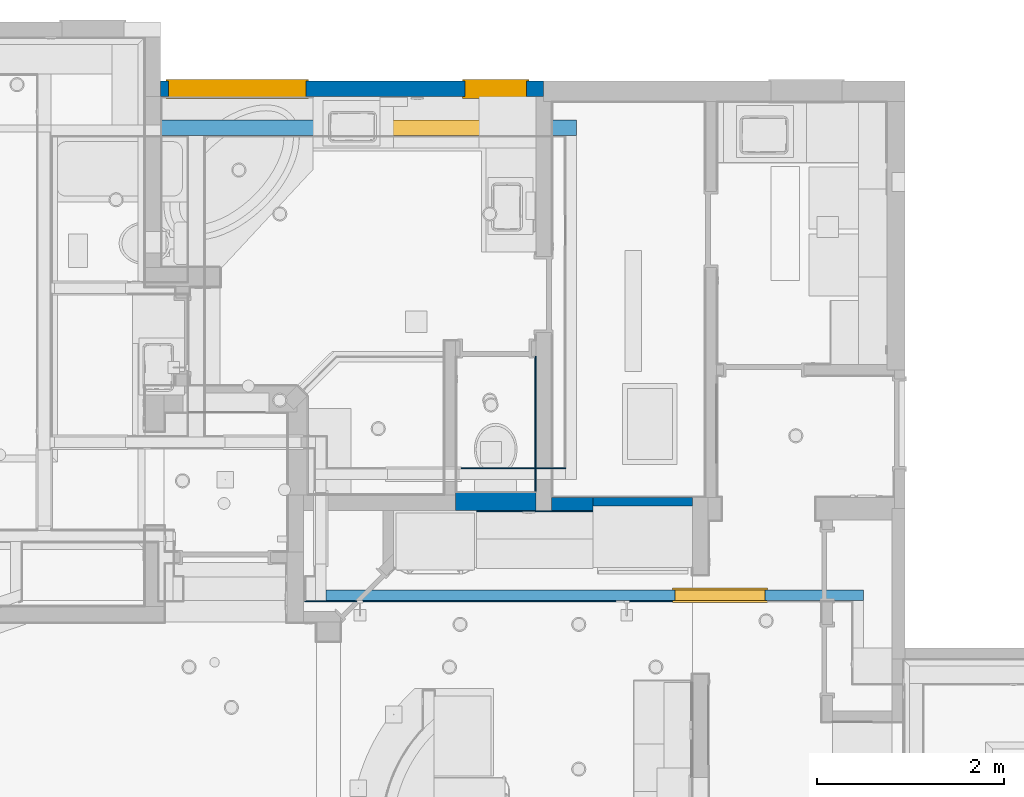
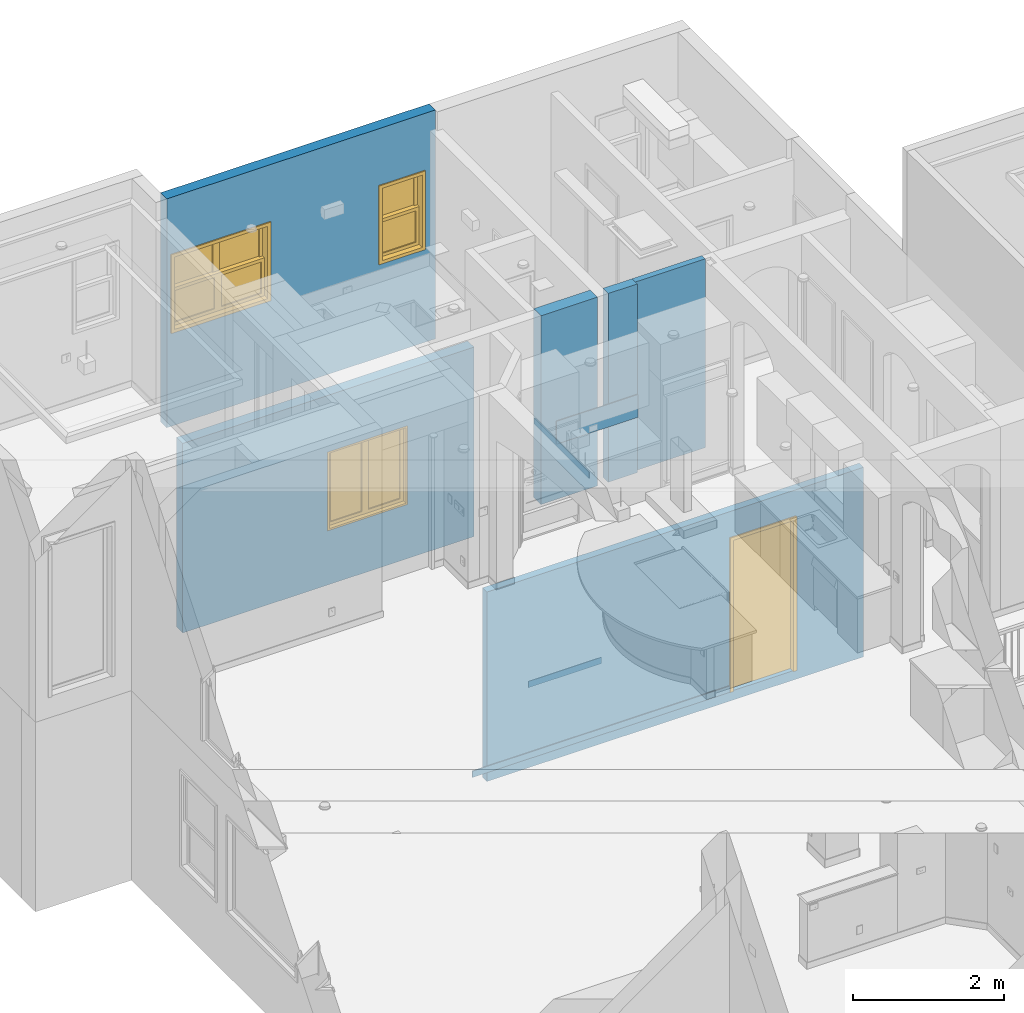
# One storey, part 11 of 60: 10 walls, 3 windows, 1 door, 4 openings.
"""IFC2X3 building model written with IfcOpenShell, lengths in feet."""

import ifcopenshell
import ifcopenshell.guid

model = None  # the IFC model being written
_history = None  # IfcOwnerHistory: only IFC2X3 demands one
_inside = {}  # id of a spatial element -> (the spatial element, [elements in it])
_under = {}  # id of a project, library or spatial element -> (it, [spatial elements below it])
_declared = {}  # id of a project -> (the project, [libraries it declares])
_typed = {}  # id of a type object -> (the type object, [elements of that type])
_made_of = {}  # id of a material, layer set ... -> (it, [elements and type objects made of it])


def new_model(schema):
    """Start an empty IFC model of exactly this schema.

    Asked for "IFC4X3", IfcOpenShell would pick the latest addendum, in which some entities
    have other attributes; the version numbers below select the first issue.
    IFC2X3 requires an IfcOwnerHistory on every rooted entity: one is made here for all.
    """
    global model, _history
    if schema == "IFC4X3":
        model = ifcopenshell.file(schema_version=(4, 3, 0, 0))
    else:
        model = ifcopenshell.file(schema=schema)
    _inside.clear()
    _under.clear()
    _declared.clear()
    _typed.clear()
    _made_of.clear()
    _history = None
    if model.schema == "IFC2X3":
        org = make("IfcOrganization", Name="unknown")
        user = make(
            "IfcPersonAndOrganization",
            ThePerson=make("IfcPerson", FamilyName="unknown"),
            TheOrganization=org,
        )
        app = make(
            "IfcApplication",
            ApplicationDeveloper=org,
            Version="unknown",
            ApplicationFullName="unknown",
            ApplicationIdentifier="unknown",
        )
        _history = make(
            "IfcOwnerHistory",
            OwningUser=user,
            OwningApplication=app,
            ChangeAction="ADDED",
            CreationDate=0,
        )
    return model


def make(cls, **values):
    """One entity of the class cls with the attributes given. An attribute that is None is left unset."""
    return model.create_entity(
        cls, **{name: value for name, value in values.items() if value is not None}
    )


def entity(cls, *values):
    """Any entity or typed value of the class cls, its attributes in the order of the schema. None: left unset."""
    e = model.create_entity(cls)
    for i, value in enumerate(values):
        if value is not None:
            e[i] = value
    return e


def rooted(cls, **values):
    """An entity with a GlobalId (a new one), such as an element, a storey or a relation."""
    return make(cls, GlobalId=ifcopenshell.guid.new(), OwnerHistory=_history, **values)


def si_unit(unit_type, name, prefix=None):
    """IfcSIUnit, for example si_unit("LENGTHUNIT", "METRE", prefix="MILLI")."""
    return make("IfcSIUnit", UnitType=unit_type, Prefix=prefix, Name=name)


def converted_unit(unit_type, name, factor, base, dimensions=None, offset=None):
    """IfcConversionBasedUnit, such as the inch: factor (a typed value) times the base unit."""
    return make(
        "IfcConversionBasedUnit"
        if offset is None
        else "IfcConversionBasedUnitWithOffset",
        ConversionOffset=offset,
        Dimensions=None
        if dimensions is None
        else entity("IfcDimensionalExponents", *dimensions),
        UnitType=unit_type,
        Name=name,
        ConversionFactor=make(
            "IfcMeasureWithUnit", ValueComponent=factor, UnitComponent=base
        ),
    )


def assignment(units):
    """IfcUnitAssignment: the units of a project."""
    return None if units is None else make("IfcUnitAssignment", Units=units)


def point(xyz):
    """IfcCartesianPoint."""
    return None if xyz is None else make("IfcCartesianPoint", Coordinates=xyz)


def direction(xyz):
    """IfcDirection."""
    return None if xyz is None else make("IfcDirection", DirectionRatios=xyz)


def frame(location, z_axis=None, x_axis=None):
    """IfcAxis2Placement3D, a coordinate frame: its origin and axes. An axis left out is left unset."""
    return make(
        "IfcAxis2Placement3D",
        Location=point(location),
        Axis=direction(z_axis),
        RefDirection=direction(x_axis),
    )


def frame_2d(location, x_axis=None):
    """IfcAxis2Placement2D, a coordinate frame in the plane: its origin and x axis."""
    return make(
        "IfcAxis2Placement2D", Location=point(location), RefDirection=direction(x_axis)
    )


def origin():
    """The frame at (0, 0, 0) with its axes left unset."""
    return frame((0.0, 0.0, 0.0))


def origin_2d_with_axis():
    """The frame at (0, 0) in the plane with the x axis (1, 0) written out."""
    return frame_2d((0.0, 0.0), x_axis=(1.0, 0.0))


def place(relative_to, where):
    """IfcLocalPlacement: puts the frame where relative to a parent placement (None: the world)."""
    return make(
        "IfcLocalPlacement", PlacementRelTo=relative_to, RelativePlacement=where
    )


def context(
    kind, dimensions, precision=None, world=None, true_north=None, identifier=None
):
    """IfcGeometricRepresentationContext, for example the 3D "Model" context."""
    return make(
        "IfcGeometricRepresentationContext",
        ContextIdentifier=identifier,
        ContextType=kind,
        CoordinateSpaceDimension=dimensions,
        Precision=precision,
        WorldCoordinateSystem=world,
        TrueNorth=true_north,
    )


def subcontext(parent, identifier, kind, view, scale=None):
    """IfcGeometricRepresentationSubContext, for example "Body" below "Model"."""
    return make(
        "IfcGeometricRepresentationSubContext",
        ContextIdentifier=identifier,
        ContextType=kind,
        ParentContext=parent,
        TargetScale=scale,
        TargetView=view,
    )


def project(units=None, contexts=None):
    """IfcProject with its units and contexts."""
    return rooted(
        "IfcProject",
        Name="project",
        RepresentationContexts=contexts,
        UnitsInContext=assignment(units),
    )


def spatial(cls, under=None, at=None, **own):
    """A site, building, storey or space (cls), placed at a placement, below another one or the project."""
    s = rooted(cls, ObjectPlacement=at, **own)
    if under is not None:
        _under.setdefault(under.id(), (under, []))[1].append(s)
    return s


def polyline(points):
    """IfcPolyline through the points."""
    return make("IfcPolyline", Points=[point(p) for p in points])


def profile(cls, at=None, kind="AREA", **sizes):
    """A parametric profile (cls). Its sizes go by their IFC names, for example OverallWidth=200.0."""
    return make(cls, ProfileType=kind, Position=at, **sizes)


def rectangle(**sizes):
    """IfcRectangleProfileDef."""
    return profile("IfcRectangleProfileDef", **sizes)


def outline(outer, holes=None, kind="AREA"):
    """IfcArbitraryClosedProfileDef: a profile drawn as a closed curve; with holes, ...WithVoids."""
    if holes is None:
        return make("IfcArbitraryClosedProfileDef", ProfileType=kind, OuterCurve=outer)
    return make(
        "IfcArbitraryProfileDefWithVoids",
        ProfileType=kind,
        OuterCurve=outer,
        InnerCurves=holes,
    )


def extrude(swept, where, along, depth):
    """IfcExtrudedAreaSolid: the profile swept, set in the frame where, extruded along a direction by depth."""
    return make(
        "IfcExtrudedAreaSolid",
        SweptArea=swept,
        Position=where,
        ExtrudedDirection=direction(along),
        Depth=depth,
    )


def shape(context_of_items, identifier, shape_type, items):
    """IfcShapeRepresentation: the items that make up one representation, for example the "Body"."""
    return make(
        "IfcShapeRepresentation",
        ContextOfItems=context_of_items,
        RepresentationIdentifier=identifier,
        RepresentationType=shape_type,
        Items=items,
    )


def source(mapping_origin, context_of_items, identifier, shape_type, items):
    """IfcRepresentationMap: a shape defined once, which mapped items show again and again."""
    return make(
        "IfcRepresentationMap",
        MappingOrigin=mapping_origin,
        MappedRepresentation=shape(context_of_items, identifier, shape_type, items),
    )


def transform(
    local_origin,
    x_axis=None,
    y_axis=None,
    z_axis=None,
    scale=None,
    scale2=None,
    scale3=None,
    uniform=True,
):
    """IfcCartesianTransformationOperator3D, or its non-uniform kind. x_axis, y_axis, z_axis: its Axis1, 2, 3."""
    if uniform:
        return make(
            "IfcCartesianTransformationOperator3D",
            Axis1=direction(x_axis),
            Axis2=direction(y_axis),
            LocalOrigin=point(local_origin),
            Scale=scale,
            Axis3=direction(z_axis),
        )
    return make(
        "IfcCartesianTransformationOperator3DnonUniform",
        Axis1=direction(x_axis),
        Axis2=direction(y_axis),
        LocalOrigin=point(local_origin),
        Scale=scale,
        Axis3=direction(z_axis),
        Scale2=scale2,
        Scale3=scale3,
    )


def mapped(mapping_source, mapping_target):
    """IfcMappedItem: shows the shape of a source again, moved by a transform."""
    return make(
        "IfcMappedItem", MappingSource=mapping_source, MappingTarget=mapping_target
    )


def material(Name=None, Category=None):
    """IfcMaterial."""
    return make("IfcMaterial", Name=Name, Category=Category)


def material_list(materials):
    """IfcMaterialList."""
    return make("IfcMaterialList", Materials=materials)


def layer(
    of_material, thickness, ventilated=None, Name=None, Category=None, Priority=None
):
    """IfcMaterialLayer: one layer of a wall or slab, of a material (None: an air gap)."""
    return make(
        "IfcMaterialLayer",
        Material=of_material,
        LayerThickness=thickness,
        IsVentilated=ventilated,
        Name=Name,
        Category=Category,
        Priority=Priority,
    )


def layer_set(layers, Name=None):
    """IfcMaterialLayerSet."""
    return make("IfcMaterialLayerSet", MaterialLayers=layers, LayerSetName=Name)


def layer_usage(for_layer_set, set_direction, sense, offset, extent=None):
    """IfcMaterialLayerSetUsage: how a layer set lies in its element."""
    return make(
        "IfcMaterialLayerSetUsage",
        ForLayerSet=for_layer_set,
        LayerSetDirection=set_direction,
        DirectionSense=sense,
        OffsetFromReferenceLine=offset,
        ReferenceExtent=extent,
    )


def made_of(thing, what):
    """Note that an element or type object is made of a material, layer set ...; save() writes the relation."""
    if what is not None:
        _made_of.setdefault(what.id(), (what, []))[1].append(thing)
    return thing


def type_object(cls, material=None, **own):
    """A type object (cls), such as IfcWallType, which elements share."""
    return made_of(rooted(cls, **own), material)


def type_shapes(of_type, sources):
    """Give a type object the sources (RepresentationMaps) that its elements show as mapped items."""
    of_type.RepresentationMaps = sources


def element(
    cls,
    number,
    at=None,
    inside=None,
    cuts=None,
    type_object=None,
    material=None,
    context=None,
    identifier="Body",
    shape_type=None,
    held_by="IfcProductDefinitionShape",
    body=None,
    shapes=None,
    **own,
):
    """One element of the class cls, such as IfcWall. Its Tag is "e" and its number.

    at: its placement. inside: the storey or other place that contains it. cuts: it is an
    opening in that element (IfcRelVoidsElement). A single representation is given by context,
    identifier, shape_type and body (its items); several are given by shapes. held_by: the class
    of the entity that holds the representations. save() writes the other relations.
    """
    e = rooted(cls, Tag="e%d" % number, ObjectPlacement=at, **own)
    if body is not None:
        shapes = [shape(context, identifier, shape_type, body)]
    if shapes is not None:
        e.Representation = make(held_by, Representations=shapes)
    if inside is not None:
        _inside.setdefault(inside.id(), (inside, []))[1].append(e)
    if cuts is not None:
        rooted(
            "IfcRelVoidsElement", RelatingBuildingElement=cuts, RelatedOpeningElement=e
        )
    if type_object is not None:
        _typed.setdefault(type_object.id(), (type_object, []))[1].append(e)
    return made_of(e, material)


def fill(opening, filler):
    """IfcRelFillsElement: the door or window that sits in an opening."""
    return rooted(
        "IfcRelFillsElement",
        RelatingOpeningElement=opening,
        RelatedBuildingElement=filler,
    )


def aggregate(whole, parts):
    """IfcRelAggregates: a whole, such as a stair, and the parts it consists of."""
    return rooted("IfcRelAggregates", RelatingObject=whole, RelatedObjects=parts)


def save(model, path):
    """Write the relations noted so far, then the file.

    IfcRelAggregates (storeys below a building ...), IfcRelContainedInSpatialStructure (elements
    in a storey), IfcRelDefinesByType, IfcRelAssociatesMaterial and IfcRelDeclares: one each for
    every whole, place, type object, material and project.
    """
    for whole, parts in _under.values():
        aggregate(whole, parts)
    for where, things in _inside.values():
        rooted(
            "IfcRelContainedInSpatialStructure",
            RelatedElements=things,
            RelatingStructure=where,
        )
    for kind, things in _typed.values():
        rooted("IfcRelDefinesByType", RelatedObjects=things, RelatingType=kind)
    for what, things in _made_of.values():
        rooted("IfcRelAssociatesMaterial", RelatedObjects=things, RelatingMaterial=what)
    for by, libraries in _declared.values():
        rooted("IfcRelDeclares", RelatingContext=by, RelatedDefinitions=libraries)
    model.write(path)


model = new_model("IFC2X3")

# Units and contexts
model_context = context("Model", 3, precision=0.0001, world=origin(), true_north=direction((6.123031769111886e-17, 1.0)))
plan_context = context("Plan", 3, precision=0.0001, world=origin(), true_north=direction((6.123031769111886e-17, 1.0)))
body_context = subcontext(model_context, "Body", "Model", "MODEL_VIEW")
ifc_project = project(units=[converted_unit("LENGTHUNIT", "FOOT", entity("IfcLengthMeasure", 0.3048), si_unit("LENGTHUNIT", "METRE"), dimensions=[1, 0, 0, 0, 0, 0, 0]), converted_unit("AREAUNIT", "SQUARE FOOT", entity("IfcAreaMeasure", 0.09290304), si_unit("AREAUNIT", "SQUARE_METRE"), dimensions=[2, 0, 0, 0, 0, 0, 0]), converted_unit("PLANEANGLEUNIT", "DEGREE", entity("IfcPlaneAngleMeasure", 0.017453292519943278), si_unit("PLANEANGLEUNIT", "RADIAN"), dimensions=[0, 0, 0, 0, 0, 0, 0])], contexts=[model_context, plan_context])

# Site, building, storey
site_placement = place(None, origin())
site = spatial("IfcSite", under=ifc_project, at=site_placement, Name="Default", CompositionType="ELEMENT")
building_placement = place(site_placement, origin())
building = spatial("IfcBuilding", under=site, at=building_placement, CompositionType="ELEMENT")
storey_placement = place(building_placement, origin())
storey = spatial("IfcBuildingStorey", under=building, at=storey_placement, Name="First floor", CompositionType="ELEMENT", Elevation=0.0)

# Wall, openings, windows
ifc_material_1 = material(Name="Default New Material")
ifc_layer_1 = layer(ifc_material_1, 0.5416666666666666)
ifc_layer_set_1 = layer_set([ifc_layer_1], Name="Basic Wall:Wall_6.5\"")
ifc_layer_usage_1 = layer_usage(ifc_layer_set_1, "AXIS2", "NEGATIVE", 0.2708333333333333)
wall_type_1 = type_object("IfcWallType", Name="Basic Wall:Wall_6.5\"", PredefinedType="STANDARD", material=ifc_layer_set_1)
wall_1_placement = place(storey_placement, frame((-5.770833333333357, 47.770488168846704, 9.541666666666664)))
wall_1 = element("IfcWallStandardCase", 1, at=wall_1_placement, inside=storey, type_object=wall_type_1, material=ifc_layer_usage_1, Name="Basic Wall:Wall_6.5\"", ObjectType="Basic Wall:Wall_6.5\"", context=body_context, shape_type="SweptSolid", body=[
    extrude(rectangle(XDim=13.458333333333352, YDim=0.5416666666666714, at=frame_2d((6.729166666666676, 4.440892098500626e-16), x_axis=(-1.0, 0.0))), origin(), (0.0, 0.0, 1.0), 12.125),
])
opening_1_placement = place(wall_1_placement, frame((10.687499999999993, -0.27083333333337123, 5.041666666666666)))
opening_1 = element("IfcOpeningElement", 2, at=opening_1_placement, cuts=wall_1, Name="C_Window Guilotine:2'-0\" X 3'-10\":1", ObjectType="Opening", context=body_context, shape_type="SweptSolid", body=[
    extrude(rectangle(XDim=2.166666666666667, YDim=4.000000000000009, at=frame_2d((2.0000000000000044, 1.083333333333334), x_axis=(0.0, -1.0))), frame((0.0, 0.0, 0.0), z_axis=(0.0, 1.0, 0.0), x_axis=(0.0, 0.0, 1.0)), (0.0, 0.0, 1.0), 0.5416666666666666),
])
opening_2_placement = place(wall_1_placement, frame((0.27083333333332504, -0.2708333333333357, 5.041666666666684)))
opening_2 = element("IfcOpeningElement", 3, at=opening_2_placement, cuts=wall_1, Name="C_Double Window Guilotine:4'-8\" X 3'-10\":1", ObjectType="Opening", context=body_context, shape_type="SweptSolid", body=[
    extrude(rectangle(XDim=4.833333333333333, YDim=4.0, at=frame_2d((2.000000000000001, 2.4166666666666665), x_axis=(0.0, -1.0))), frame((0.0, 0.0, 0.0), z_axis=(0.0, 1.0, 0.0), x_axis=(0.0, 0.0, 1.0)), (0.0, 0.0, 1.0), 0.5416666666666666),
])
ifc_material_2 = material(Name="Glass")
ifc_material_list_1 = material_list([ifc_material_1, ifc_material_2])
window_style_1 = type_object("IfcWindowStyle", Name="C_Double Window Guilotine:4'-8\" X 3'-10\"", ConstructionType="NOTDEFINED", OperationType="NOTDEFINED", ParameterTakesPrecedence=False, Sizeable=False, material=ifc_material_list_1)
shared_shape_1 = source(origin(), body_context, "Body", "SweptSolid", [
    extrude(outline(polyline([(-1.166666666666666, -1.0), (1.166666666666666, -1.0), (1.166666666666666, 1.0), (-1.166666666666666, 1.0), (-1.166666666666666, -1.0)]), holes=[polyline([(-1.0, -0.8333333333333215), (-1.0, 0.8333333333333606), (1.0, 0.8333333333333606), (1.0, -0.8333333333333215), (-1.0, -0.8333333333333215)])]), frame((1.250000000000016, 0.5416666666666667, 2.916666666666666), z_axis=(0.0, -1.0, 0.0), x_axis=(-1.0, 0.0, 0.0)), (0.0, 0.0, 1.0), 0.16666666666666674),
    extrude(rectangle(XDim=1.9999999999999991, YDim=0.04166666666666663, at=origin_2d_with_axis()), frame((1.2500000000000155, 0.2916666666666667, 1.3402777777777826)), (0.0, 0.0, 1.0), 0.04166666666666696),
    extrude(rectangle(XDim=2.0000000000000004, YDim=0.04166666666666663, at=origin_2d_with_axis()), frame((1.2500000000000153, 0.2916666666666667, 0.7847222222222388)), (0.0, 0.0, 1.0), 0.04166666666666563),
    extrude(rectangle(XDim=2.0000000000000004, YDim=0.041666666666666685, at=frame_2d((3.3306690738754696e-16, 2.7755575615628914e-17), x_axis=(1.0, 0.0))), frame((1.2500000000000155, 0.45833333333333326, 3.173611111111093)), (0.0, 0.0, 1.0), 0.04166666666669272),
    extrude(rectangle(XDim=2.0000000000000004, YDim=0.041666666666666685, at=frame_2d((3.3306690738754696e-16, 2.7755575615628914e-17), x_axis=(1.0, 0.0))), frame((1.2500000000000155, 0.45833333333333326, 2.6180555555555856)), (0.0, 0.0, 1.0), 0.04166666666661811),
    extrude(rectangle(XDim=0.04166666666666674, YDim=0.041666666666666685, at=frame_2d((0.0, 2.7755575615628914e-17), x_axis=(1.0, 0.0))), frame((1.5833333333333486, 0.45833333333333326, 2.0833333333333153)), (0.0, 0.0, 1.0), 1.6666666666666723),
    extrude(rectangle(XDim=0.041666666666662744, YDim=0.041666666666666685, at=frame_2d((-1.1102230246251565e-16, 2.7755575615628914e-17), x_axis=(1.0, 0.0))), frame((0.9166666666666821, 0.45833333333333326, 2.0833333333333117)), (0.0, 0.0, 1.0), 1.6666666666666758),
    extrude(rectangle(XDim=2.0000000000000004, YDim=0.04166666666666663, at=frame_2d((1.1102230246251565e-16, 0.0), x_axis=(1.0, 0.0))), frame((1.250000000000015, 0.4583333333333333, 2.0833333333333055)), (0.0, 0.0, 1.0), 1.666666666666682),
    extrude(rectangle(XDim=0.04166666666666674, YDim=0.04166666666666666, at=origin_2d_with_axis()), frame((1.5833333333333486, 0.2916666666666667, 0.24999999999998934)), (0.0, 0.0, 1.0), 1.666666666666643),
    extrude(rectangle(XDim=0.04166666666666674, YDim=0.04166666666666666, at=frame_2d((-1.1102230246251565e-16, 0.0), x_axis=(1.0, 0.0))), frame((0.9166666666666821, 0.2916666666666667, 0.24999999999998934)), (0.0, 0.0, 1.0), 1.666666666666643),
    extrude(rectangle(XDim=1.9999999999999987, YDim=0.04166666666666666, at=origin_2d_with_axis()), frame((1.2500000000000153, 0.2916666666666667, 0.24999999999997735)), (0.0, 0.0, 1.0), 1.6666666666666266),
    extrude(outline(polyline([(-1.0, -1.166666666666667), (1.0, -1.166666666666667), (1.0, 1.1666666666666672), (-1.0, 1.1666666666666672), (-1.0, -1.166666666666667)]), holes=[polyline([(-0.8333333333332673, 1.0), (0.8333333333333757, 1.0), (0.8333333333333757, -1.0), (-0.8333333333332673, -1.0), (-0.8333333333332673, 1.0)])]), frame((1.250000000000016, 0.375, 1.083333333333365), z_axis=(0.0, -1.0, 0.0), x_axis=(0.0, 0.0, -1.0)), (0.0, 0.0, 1.0), 0.16666666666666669),
    extrude(outline(polyline([(-1.166666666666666, -1.0), (1.166666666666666, -1.0), (1.166666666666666, 1.0), (-1.166666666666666, 1.0), (-1.166666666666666, -1.0)]), holes=[polyline([(-1.0, -0.8333333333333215), (-1.0, 0.8333333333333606), (1.0, 0.8333333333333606), (1.0, -0.8333333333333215), (-1.0, -0.8333333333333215)])]), frame((3.583333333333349, 0.5416666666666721, 2.916666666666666), z_axis=(0.0, -1.0, 0.0), x_axis=(-1.0, 0.0, 0.0)), (0.0, 0.0, 1.0), 0.16666666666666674),
    extrude(rectangle(XDim=1.9999999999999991, YDim=0.04166666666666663, at=origin_2d_with_axis()), frame((3.5833333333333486, 0.29166666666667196, 1.3402777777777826)), (0.0, 0.0, 1.0), 0.04166666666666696),
    extrude(rectangle(XDim=2.0000000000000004, YDim=0.04166666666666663, at=origin_2d_with_axis()), frame((3.583333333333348, 0.29166666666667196, 0.7847222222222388)), (0.0, 0.0, 1.0), 0.04166666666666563),
    extrude(rectangle(XDim=2.000000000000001, YDim=0.041666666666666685, at=frame_2d((-1.1102230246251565e-16, 0.0), x_axis=(1.0, 0.0))), frame((3.583333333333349, 0.45833333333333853, 3.173611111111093)), (0.0, 0.0, 1.0), 0.04166666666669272),
    extrude(rectangle(XDim=2.000000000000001, YDim=0.041666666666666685, at=frame_2d((-1.1102230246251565e-16, 0.0), x_axis=(1.0, 0.0))), frame((3.583333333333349, 0.45833333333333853, 2.6180555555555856)), (0.0, 0.0, 1.0), 0.04166666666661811),
    extrude(rectangle(XDim=0.04166666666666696, YDim=0.041666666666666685, at=origin_2d_with_axis()), frame((3.9166666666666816, 0.45833333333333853, 2.0833333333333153)), (0.0, 0.0, 1.0), 1.6666666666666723),
    extrude(rectangle(XDim=0.04166666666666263, YDim=0.041666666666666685, at=frame_2d((5.551115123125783e-17, 0.0), x_axis=(1.0, 0.0))), frame((3.250000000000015, 0.45833333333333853, 2.0833333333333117)), (0.0, 0.0, 1.0), 1.6666666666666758),
    extrude(rectangle(XDim=2.0, YDim=0.04166666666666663, at=origin_2d_with_axis()), frame((3.583333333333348, 0.4583333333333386, 2.0833333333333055)), (0.0, 0.0, 1.0), 1.666666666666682),
    extrude(rectangle(XDim=0.04166666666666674, YDim=0.04166666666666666, at=frame_2d((-1.1102230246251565e-16, 0.0), x_axis=(1.0, 0.0))), frame((3.9166666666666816, 0.29166666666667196, 0.24999999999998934)), (0.0, 0.0, 1.0), 1.666666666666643),
    extrude(rectangle(XDim=0.04166666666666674, YDim=0.04166666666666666, at=origin_2d_with_axis()), frame((3.250000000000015, 0.29166666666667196, 0.24999999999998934)), (0.0, 0.0, 1.0), 1.666666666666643),
    extrude(rectangle(XDim=1.9999999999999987, YDim=0.04166666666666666, at=frame_2d((-5.551115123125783e-17, 0.0), x_axis=(1.0, 0.0))), frame((3.583333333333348, 0.29166666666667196, 0.24999999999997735)), (0.0, 0.0, 1.0), 1.6666666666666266),
    extrude(outline(polyline([(-1.0, -1.166666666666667), (1.0, -1.166666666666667), (1.0, 1.166666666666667), (-1.0, 1.166666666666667), (-1.0, -1.166666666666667)]), holes=[polyline([(-0.8333333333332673, 1.0), (0.8333333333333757, 1.0), (0.8333333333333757, -1.0), (-0.8333333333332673, -1.0), (-0.8333333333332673, 1.0)])]), frame((3.583333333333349, 0.3750000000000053, 1.083333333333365), z_axis=(0.0, -1.0, 0.0), x_axis=(0.0, 0.0, -1.0)), (0.0, 0.0, 1.0), 0.16666666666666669),
    extrude(outline(polyline([(-2.500000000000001, -2.083333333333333), (2.500000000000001, -2.083333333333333), (2.500000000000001, 2.083333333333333), (-2.500000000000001, 2.083333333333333), (-2.500000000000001, -2.083333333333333)]), holes=[polyline([(-2.3333333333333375, -1.9166666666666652), (-2.333333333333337, 1.916666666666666), (2.3333333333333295, 1.916666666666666), (2.3333333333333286, -1.9166666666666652), (-2.3333333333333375, -1.9166666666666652)])]), frame((2.4166666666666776, 0.0, 2.0), z_axis=(0.0, -1.0, 0.0), x_axis=(-1.0, 0.0, 0.0)), (0.0, 0.0, 1.0), 0.0625),
    extrude(outline(polyline([(-2.4999999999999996, -2.083333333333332), (2.4999999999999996, -2.083333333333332), (2.4999999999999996, 2.083333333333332), (-2.4999999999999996, 2.083333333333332), (-2.4999999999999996, -2.083333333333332)]), holes=[polyline([(-2.333333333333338, -1.9166666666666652), (-2.3333333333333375, 1.916666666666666), (2.333333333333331, 1.916666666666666), (2.33333333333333, -1.9166666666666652), (-2.333333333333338, -1.9166666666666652)])]), frame((2.4166666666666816, 0.6041666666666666, 2.0), z_axis=(0.0, -1.0, 0.0), x_axis=(-1.0, 0.0, 0.0)), (0.0, 0.0, 1.0), 0.0625),
    extrude(outline(polyline([(-2.0, -2.4166666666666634), (2.0, -2.4166666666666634), (2.0, 2.4166666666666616), (-2.0, 2.416666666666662), (-2.0, -2.4166666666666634)]), holes=[polyline([(-1.9166666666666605, 2.333333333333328), (1.9166666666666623, 2.333333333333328), (1.916666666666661, -2.3333333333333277), (-1.9166666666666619, -2.3333333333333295), (-1.9166666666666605, 2.333333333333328)])]), frame((2.416666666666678, 0.5416666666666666, 2.0), z_axis=(0.0, -1.0, 0.0), x_axis=(0.0, 0.0, -1.0)), (0.0, 0.0, 1.0), 0.5416666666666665),
])
type_shapes(window_style_1, [shared_shape_1])
window_1_placement = place(opening_2_placement, origin())
window_1 = element("IfcWindow", 4, at=window_1_placement, inside=storey, type_object=window_style_1, material=ifc_material_list_1, Name="C_Double Window Guilotine:4'-8\" X 3'-10\"", ObjectType="C_Double Window Guilotine:4'-8\" X 3'-10\"", OverallHeight=4.000000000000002, OverallWidth=4.833333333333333, context=body_context, shape_type="MappedRepresentation", body=[
    mapped(shared_shape_1, transform((0.0, 0.0, 0.0), scale=1.0)),
])
fill(opening_2, window_1)
window_style_2 = type_object("IfcWindowStyle", Name="C_Window Guilotine:2'-0\" X 3'-10\"", ConstructionType="NOTDEFINED", OperationType="NOTDEFINED", ParameterTakesPrecedence=False, Sizeable=False, material=ifc_material_list_1)
shared_shape_2 = source(origin(), body_context, "Body", "SweptSolid", [
    extrude(outline(polyline([(-1.0, -1.0), (1.0, -1.0), (1.0, 1.0), (-1.0, 1.0), (-1.0, -1.0)]), holes=[polyline([(-0.8333333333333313, -0.8333333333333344), (-0.8333333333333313, 0.8333333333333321), (0.8333333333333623, 0.8333333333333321), (0.8333333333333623, -0.8333333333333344), (-0.8333333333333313, -0.8333333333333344)])]), frame((1.0833333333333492, 0.5416666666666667, 2.9166666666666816), z_axis=(0.0, -1.0, 0.0), x_axis=(0.0, 0.0, -1.0)), (0.0, 0.0, 1.0), 0.1666666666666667),
    extrude(rectangle(XDim=0.04166666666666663, YDim=1.6666666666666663, at=origin_2d_with_axis()), frame((1.0833333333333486, 0.2916666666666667, 1.3402777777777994), z_axis=(0.0, 0.0, 1.0), x_axis=(0.0, 1.0, 0.0)), (0.0, 0.0, 1.0), 0.04166666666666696),
    extrude(rectangle(XDim=0.04166666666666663, YDim=1.6666666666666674, at=origin_2d_with_axis()), frame((1.0833333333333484, 0.2916666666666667, 0.7847222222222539), z_axis=(0.0, 0.0, 1.0), x_axis=(0.0, 1.0, 0.0)), (0.0, 0.0, 1.0), 0.04166666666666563),
    extrude(rectangle(XDim=0.04166666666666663, YDim=1.6666666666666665, at=origin_2d_with_axis()), frame((1.0833333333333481, 0.4583333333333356, 3.1736111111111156), z_axis=(0.0, 0.0, 1.0), x_axis=(0.0, 1.0, 0.0)), (0.0, 0.0, 1.0), 0.04166666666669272),
    extrude(rectangle(XDim=0.04166666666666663, YDim=1.6666666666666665, at=origin_2d_with_axis()), frame((1.0833333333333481, 0.4583333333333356, 2.618055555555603), z_axis=(0.0, 0.0, 1.0), x_axis=(0.0, 1.0, 0.0)), (0.0, 0.0, 1.0), 0.04166666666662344),
    extrude(rectangle(XDim=0.04166666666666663, YDim=0.04166666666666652, at=origin_2d_with_axis()), frame((0.8055555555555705, 0.4583333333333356, 2.083333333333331), z_axis=(0.0, 0.0, 1.0), x_axis=(0.0, 1.0, 0.0)), (0.0, 0.0, 1.0), 1.666666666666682),
    extrude(rectangle(XDim=0.04166666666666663, YDim=0.04166666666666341, at=origin_2d_with_axis()), frame((1.3611111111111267, 0.4583333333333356, 2.0833333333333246), z_axis=(0.0, 0.0, 1.0), x_axis=(0.0, 1.0, 0.0)), (0.0, 0.0, 1.0), 1.66666666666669),
    extrude(rectangle(XDim=0.04166666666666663, YDim=1.6666666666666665, at=origin_2d_with_axis()), frame((1.0833333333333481, 0.4583333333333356, 2.0833333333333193), z_axis=(0.0, 0.0, 1.0), x_axis=(0.0, 1.0, 0.0)), (0.0, 0.0, 1.0), 1.6666666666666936),
    extrude(rectangle(XDim=0.04166666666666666, YDim=0.04166666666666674, at=origin_2d_with_axis()), frame((0.8055555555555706, 0.29166666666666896, 0.25000000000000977), z_axis=(0.0, 0.0, 1.0), x_axis=(0.0, 1.0, 0.0)), (0.0, 0.0, 1.0), 1.6666666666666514),
    extrude(rectangle(XDim=0.04166666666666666, YDim=0.04166666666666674, at=origin_2d_with_axis()), frame((1.3611111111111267, 0.29166666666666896, 0.25000000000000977), z_axis=(0.0, 0.0, 1.0), x_axis=(0.0, 1.0, 0.0)), (0.0, 0.0, 1.0), 1.6666666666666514),
    extrude(rectangle(XDim=0.04166666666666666, YDim=1.6666666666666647, at=origin_2d_with_axis()), frame((1.0833333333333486, 0.2916666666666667, 0.25000000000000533), z_axis=(0.0, 0.0, 1.0), x_axis=(0.0, 1.0, 0.0)), (0.0, 0.0, 1.0), 1.666666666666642),
    extrude(outline(polyline([(-1.0, -1.0), (1.0, -1.0), (1.0, 1.0), (-1.0, 1.0), (-1.0, -1.0)]), holes=[polyline([(0.833333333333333, -0.8333333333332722), (-0.8333333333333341, -0.8333333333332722), (-0.8333333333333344, 0.8333333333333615), (0.833333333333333, 0.8333333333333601), (0.833333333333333, -0.8333333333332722)])]), frame((1.0833333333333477, 0.375, 1.0833333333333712), z_axis=(0.0, -1.0, 0.0), x_axis=(-1.0, 0.0, 0.0)), (0.0, 0.0, 1.0), 0.16666666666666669),
    extrude(outline(polyline([(-1.166666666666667, -2.083333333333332), (1.166666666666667, -2.083333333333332), (1.1666666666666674, 2.083333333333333), (-1.1666666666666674, 2.083333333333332), (-1.166666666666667, -2.083333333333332)]), holes=[polyline([(-1.0, -1.916666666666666), (-1.0, 1.9166666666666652), (1.0, 1.9166666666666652), (1.0, -1.916666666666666), (-1.0, -1.916666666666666)])]), frame((1.0833333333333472, 0.0, 2.0), z_axis=(0.0, -1.0, 0.0), x_axis=(-1.0, 0.0, 0.0)), (0.0, 0.0, 1.0), 0.0625),
    extrude(outline(polyline([(-1.1666666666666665, -2.083333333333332), (1.1666666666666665, -2.083333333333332), (1.1666666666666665, 2.083333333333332), (-1.1666666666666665, 2.083333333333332), (-1.1666666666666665, -2.083333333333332)]), holes=[polyline([(-1.0, -1.9166666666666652), (-1.0, 1.916666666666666), (1.0, 1.916666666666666), (1.0, -1.9166666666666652), (-1.0, -1.9166666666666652)])]), frame((1.083333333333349, 0.6041666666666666, 2.0), z_axis=(0.0, -1.0, 0.0), x_axis=(-1.0, 0.0, 0.0)), (0.0, 0.0, 1.0), 0.0625),
    extrude(outline(polyline([(-2.0, -1.0833333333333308), (2.0, -1.0833333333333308), (2.0, 1.0833333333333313), (-2.0, 1.0833333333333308), (-2.0, -1.0833333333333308)]), holes=[polyline([(-1.9166666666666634, 1.0), (1.916666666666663, 1.0), (1.9166666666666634, -1.0), (-1.9166666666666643, -1.0), (-1.9166666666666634, 1.0)])]), frame((1.0833333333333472, 0.5416666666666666, 2.0), z_axis=(0.0, -1.0, 0.0), x_axis=(0.0, 0.0, -1.0)), (0.0, 0.0, 1.0), 0.5416666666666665),
])
type_shapes(window_style_2, [shared_shape_2])
window_2_placement = place(opening_1_placement, origin())
window_2 = element("IfcWindow", 5, at=window_2_placement, inside=storey, type_object=window_style_2, material=ifc_material_list_1, Name="C_Window Guilotine:2'-0\" X 3'-10\"", ObjectType="C_Window Guilotine:2'-0\" X 3'-10\"", OverallHeight=4.000000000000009, OverallWidth=2.166666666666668, context=body_context, shape_type="MappedRepresentation", body=[
    mapped(shared_shape_2, transform((0.0, 0.0, 0.0), scale=1.0)),
])
fill(opening_1, window_2)

# Wall, opening, window
ifc_layer_usage_2 = layer_usage(ifc_layer_set_1, "AXIS2", "POSITIVE", -0.2708333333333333)
wall_2_placement = place(storey_placement, frame((8.833333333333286, 46.395833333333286, -0.5), z_axis=(0.0, 0.0, 1.0), x_axis=(-1.0, 0.0, 0.0)))
wall_2 = element("IfcWallStandardCase", 6, at=wall_2_placement, inside=storey, type_object=wall_type_1, material=ifc_layer_usage_2, Name="Basic Wall:Wall_6.5\"", ObjectType="Basic Wall:Wall_6.5\"", context=body_context, shape_type="SweptSolid", body=[
    extrude(rectangle(XDim=14.604166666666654, YDim=0.5416666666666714, at=frame_2d((7.302083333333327, 0.0), x_axis=(-1.0, 0.0))), origin(), (0.0, 0.0, 1.0), 10.041666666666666),
])
opening_3_placement = place(wall_2_placement, frame((3.3333333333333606, -0.2708333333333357, 2.874999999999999)))
opening_3 = element("IfcOpeningElement", 7, at=opening_3_placement, cuts=wall_2, Name="C_Double Window:3'-10\" X 4'-0\":1", ObjectType="Opening", context=body_context, shape_type="SweptSolid", body=[
    extrude(rectangle(XDim=3.9999999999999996, YDim=4.166666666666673, at=frame_2d((2.083333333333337, 2.0), x_axis=(0.0, 1.0))), frame((0.0, 0.0, 0.0), z_axis=(0.0, 1.0, 0.0), x_axis=(0.0, 0.0, 1.0)), (0.0, 0.0, 1.0), 0.5416666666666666),
])
ifc_material_list_2 = material_list([ifc_material_2, ifc_material_1])
window_style_3 = type_object("IfcWindowStyle", Name="C_Double Window:3'-10\" X 4'-0\"", ConstructionType="NOTDEFINED", OperationType="NOTDEFINED", ParameterTakesPrecedence=False, Sizeable=False, material=ifc_material_list_2)
shared_shape_3 = source(origin(), body_context, "Body", "SweptSolid", [
    extrude(rectangle(XDim=1.5833333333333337, YDim=0.04166666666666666, at=origin_2d_with_axis()), frame((1.0416666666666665, 0.24999999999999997, 0.2500000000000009)), (0.0, 0.0, 1.0), 3.6666666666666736),
    extrude(outline(polyline([(-0.9583333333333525, -2.0), (0.9583333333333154, -2.0), (0.9583333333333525, 2.0), (-0.9583333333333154, 2.0), (-0.9583333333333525, -2.0)]), holes=[polyline([(0.7916666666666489, -1.833333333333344), (-0.7916666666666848, -1.8333333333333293), (-0.7916666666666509, 1.8333333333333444), (0.7916666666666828, 1.8333333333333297), (0.7916666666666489, -1.833333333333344)])]), frame((1.0416666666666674, 0.16666666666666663, 2.083333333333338), z_axis=(0.0, 1.0, 0.0), x_axis=(1.0, 0.0, 0.0)), (0.0, 0.0, 1.0), 0.16666666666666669),
    extrude(rectangle(XDim=1.5833333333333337, YDim=0.04166666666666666, at=origin_2d_with_axis()), frame((2.9583333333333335, 0.24999999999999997, 0.2500000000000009)), (0.0, 0.0, 1.0), 3.6666666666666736),
    extrude(outline(polyline([(-0.9583333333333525, -2.0), (0.9583333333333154, -2.0), (0.9583333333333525, 2.0), (-0.9583333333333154, 2.0), (-0.9583333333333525, -2.0)]), holes=[polyline([(0.7916666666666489, -1.833333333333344), (-0.7916666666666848, -1.8333333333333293), (-0.7916666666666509, 1.8333333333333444), (0.7916666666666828, 1.8333333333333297), (0.7916666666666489, -1.833333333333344)])]), frame((2.9583333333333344, 0.16666666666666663, 2.083333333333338), z_axis=(0.0, 1.0, 0.0), x_axis=(1.0, 0.0, 0.0)), (0.0, 0.0, 1.0), 0.16666666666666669),
    extrude(outline(polyline([(-2.0, -2.0833333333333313), (2.0, -2.0833333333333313), (2.0, 2.0833333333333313), (-2.0, 2.0833333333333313), (-2.0, -2.0833333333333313)]), holes=[polyline([(1.9166666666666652, -2.0), (-1.9166666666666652, -2.0), (-1.9166666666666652, 2.0), (1.9166666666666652, 2.0), (1.9166666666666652, -2.0)])]), frame((2.0, 0.0, 2.0833333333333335), z_axis=(0.0, 1.0, 0.0), x_axis=(1.0, 0.0, 0.0)), (0.0, 0.0, 1.0), 0.5416666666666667),
])
type_shapes(window_style_3, [shared_shape_3])
window_3_placement = place(opening_3_placement, origin())
window_3 = element("IfcWindow", 8, at=window_3_placement, inside=storey, type_object=window_style_3, material=ifc_material_list_2, Name="C_Double Window:3'-10\" X 4'-0\"", ObjectType="C_Double Window:3'-10\" X 4'-0\"", OverallHeight=4.166666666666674, OverallWidth=4.0, context=body_context, shape_type="MappedRepresentation", body=[
    mapped(shared_shape_3, transform((0.0, 0.0, 0.0), scale=1.0)),
])
fill(opening_3, window_3)

# Wall
ifc_layer_2 = layer(ifc_material_1, 0.625)
ifc_layer_set_2 = layer_set([ifc_layer_2], Name="Basic Wall:Wall_7.5\"")
ifc_layer_usage_3 = layer_usage(ifc_layer_set_2, "AXIS2", "NEGATIVE", 0.31250000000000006)
wall_type_2 = type_object("IfcWallType", Name="Basic Wall:Wall_7.5\"", PredefinedType="STANDARD", material=ifc_layer_set_2)
wall_3_placement = place(storey_placement, frame((4.583333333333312, 33.27083333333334, 10.666666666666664)))
element("IfcWallStandardCase", 9, at=wall_3_placement, inside=storey, type_object=wall_type_2, material=ifc_layer_usage_3, Name="Basic Wall:Wall_7.5\"", ObjectType="Basic Wall:Wall_7.5\"", context=body_context, shape_type="SweptSolid", body=[
    extrude(rectangle(XDim=2.833333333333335, YDim=0.625, at=frame_2d((1.4166666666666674, 0.0), x_axis=(-1.0, 0.0))), origin(), (0.0, 0.0, 1.0), 10.0),
])

# Wall, opening, door
ifc_layer_3 = layer(ifc_material_1, 0.375)
ifc_layer_set_3 = layer_set([ifc_layer_3], Name="Basic Wall:Wall_4.5\"")
ifc_layer_usage_4 = layer_usage(ifc_layer_set_3, "AXIS2", "NEGATIVE", 0.1875)
wall_type_3 = type_object("IfcWallType", Name="Basic Wall:Wall_4.5\"", PredefinedType="STANDARD", material=ifc_layer_set_3)
wall_4_placement = place(storey_placement, frame((0.0416666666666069, 29.979166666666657, -0.5)))
wall_4 = element("IfcWallStandardCase", 10, at=wall_4_placement, inside=storey, type_object=wall_type_3, material=ifc_layer_usage_4, Name="Basic Wall:Wall_4.5\"", ObjectType="Basic Wall:Wall_4.5\"", context=body_context, shape_type="SweptSolid", body=[
    extrude(rectangle(XDim=18.875000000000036, YDim=0.375, at=frame_2d((9.437500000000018, 0.0), x_axis=(-1.0, 0.0))), origin(), (0.0, 0.0, 1.0), 10.041666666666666),
])
opening_4_placement = place(wall_4_placement, frame((12.250000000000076, -0.18750000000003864, 0.5)))
opening_4 = element("IfcOpeningElement", 11, at=opening_4_placement, cuts=wall_4, Name="C_Single Door:3'-0\" X 8'-0\":1", ObjectType="Opening", context=body_context, shape_type="SweptSolid", body=[
    extrude(rectangle(XDim=3.166666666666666, YDim=8.083333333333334, at=frame_2d((4.041666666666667, 1.583333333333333), x_axis=(0.0, -1.0))), frame((0.0, 0.0, 0.0), z_axis=(0.0, 1.0, 0.0), x_axis=(0.0, 0.0, 1.0)), (0.0, 0.0, 1.0), 0.375),
])
door_style = type_object("IfcDoorStyle", Name="C_Single Door:3'-0\" X 8'-0\"", ConstructionType="NOTDEFINED", OperationType="SINGLE_SWING_LEFT", ParameterTakesPrecedence=False, Sizeable=False, material=ifc_material_1)
shared_shape_4 = source(origin(), body_context, "Body", "SweptSolid", [
    extrude(rectangle(XDim=0.16666666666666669, YDim=2.999999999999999, at=origin_2d_with_axis()), frame((1.5833333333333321, 0.08333333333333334, 0.0), z_axis=(0.0, 0.0, 1.0), x_axis=(0.0, 1.0, 0.0)), (0.0, 0.0, 1.0), 8.0),
    extrude(outline(polyline([(-3.958333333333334, 1.4999999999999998), (4.041666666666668, 1.4999999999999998), (4.041666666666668, 1.6666666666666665), (-4.125000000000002, 1.6666666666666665), (-4.125000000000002, -1.6666666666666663), (4.041666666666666, -1.6666666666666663), (4.041666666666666, -1.4999999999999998), (-3.958333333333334, -1.4999999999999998), (-3.958333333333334, 1.4999999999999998)])), frame((1.583333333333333, -0.0625, 4.041666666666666), z_axis=(0.0, 1.0, 0.0), x_axis=(0.0, 0.0, -1.0)), (0.0, 0.0, 1.0), 0.0625),
    extrude(outline(polyline([(-3.958333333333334, 1.4999999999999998), (4.041666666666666, 1.4999999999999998), (4.041666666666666, 1.6666666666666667), (-4.125, 1.6666666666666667), (-4.125, -1.6666666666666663), (4.041666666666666, -1.6666666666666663), (4.041666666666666, -1.5000000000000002), (-3.958333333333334, -1.5000000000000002), (-3.958333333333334, 1.4999999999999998)])), frame((1.5833333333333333, 0.375, 4.041666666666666), z_axis=(0.0, 1.0, 0.0), x_axis=(0.0, 0.0, -1.0)), (0.0, 0.0, 1.0), 0.0625),
    extrude(outline(polyline([(-4.020833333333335, -1.5833333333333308), (4.062499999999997, -1.5833333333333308), (4.062499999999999, 1.5833333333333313), (-4.020833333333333, 1.5833333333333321), (-4.020833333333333, 1.4999999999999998), (3.979166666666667, 1.4999999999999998), (3.979166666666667, -1.4999999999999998), (-4.020833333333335, -1.4999999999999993), (-4.020833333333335, -1.5833333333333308)])), frame((1.5833333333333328, 0.0, 4.020833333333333), z_axis=(0.0, 1.0, 0.0), x_axis=(0.0, 0.0, 1.0)), (0.0, 0.0, 1.0), 0.375),
])
type_shapes(door_style, [shared_shape_4])
door_placement = place(opening_4_placement, frame((3.166666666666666, 0.3749999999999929, 0.0), z_axis=(0.0, 0.0, 1.0), x_axis=(-1.0, 0.0, 0.0)))
door = element("IfcDoor", 12, at=door_placement, inside=storey, type_object=door_style, material=ifc_material_1, Name="C_Single Door:3'-0\" X 8'-0\"", ObjectType="C_Single Door:3'-0\" X 8'-0\"", OverallHeight=8.083333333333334, OverallWidth=3.166666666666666, context=body_context, shape_type="MappedRepresentation", body=[
    mapped(shared_shape_4, transform((0.0, 0.0, 0.0), scale=1.0)),
])
fill(opening_4, door)

# Walls
ifc_layer_4 = layer(ifc_material_1, 0.45833333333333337)
ifc_layer_set_4 = layer_set([ifc_layer_4], Name="Basic Wall:Wall_5.5\"")
ifc_layer_usage_5 = layer_usage(ifc_layer_set_4, "AXIS2", "NEGATIVE", 0.22916666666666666)
wall_type_4 = type_object("IfcWallType", Name="Basic Wall:Wall_5.5\"", PredefinedType="STANDARD", material=ifc_layer_set_4)
wall_5_placement = place(storey_placement, frame((7.958333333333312, 33.1875, 10.666666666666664)))
element("IfcWallStandardCase", 13, at=wall_5_placement, inside=storey, type_object=wall_type_4, material=ifc_layer_usage_5, Name="Basic Wall:Wall_5.5\"", ObjectType="Basic Wall:Wall_5.5\"", context=body_context, shape_type="SweptSolid", body=[
    extrude(rectangle(XDim=1.4583333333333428, YDim=0.4583333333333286, at=frame_2d((0.7291666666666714, 0.0), x_axis=(-1.0, 0.0))), origin(), (0.0, 0.0, 1.0), 10.0),
])
ifc_layer_5 = layer(ifc_material_1, 0.2916666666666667)
ifc_layer_set_5 = layer_set([ifc_layer_5], Name="Basic Wall:Wall_3.5\"")
ifc_layer_usage_6 = layer_usage(ifc_layer_set_5, "AXIS2", "POSITIVE", -0.14583333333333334)
wall_type_5 = type_object("IfcWallType", Name="Basic Wall:Wall_3.5\"", PredefinedType="STANDARD", material=ifc_layer_set_5)
wall_6_placement = place(storey_placement, frame((9.416666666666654, 33.27083333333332, 10.666666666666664)))
element("IfcWallStandardCase", 14, at=wall_6_placement, inside=storey, type_object=wall_type_5, material=ifc_layer_usage_6, Name="Basic Wall:Wall_3.5\"", ObjectType="Basic Wall:Wall_3.5\"", context=body_context, shape_type="SweptSolid", body=[
    extrude(rectangle(XDim=3.5000000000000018, YDim=0.2916666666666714, at=frame_2d((1.7500000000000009, -4.163336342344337e-17), x_axis=(-1.0, 0.0))), origin(), (0.0, 0.0, 1.0), 10.0),
])
ifc_layer_6 = layer(ifc_material_1, 0.041666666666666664)
ifc_layer_set_6 = layer_set([ifc_layer_6], Name="Basic Wall:Wall Border_T1")
ifc_layer_usage_7 = layer_usage(ifc_layer_set_6, "AXIS2", "POSITIVE", -0.020833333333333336)
wall_type_6 = type_object("IfcWallType", Name="Basic Wall:Wall Border_T1", PredefinedType="STANDARD", material=ifc_layer_set_6)
wall_7_placement = place(storey_placement, frame((-0.7083333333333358, 29.770833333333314, 0.0)))
element("IfcWallStandardCase", 15, at=wall_7_placement, inside=storey, type_object=wall_type_6, material=ifc_layer_usage_7, Name="Basic Wall:Wall Border_T1", ObjectType="Basic Wall:Wall Border_T1", context=body_context, shape_type="SweptSolid", body=[
    extrude(rectangle(XDim=12.91666666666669, YDim=0.0416666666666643, at=frame_2d((6.458333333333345, 6.938893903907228e-17), x_axis=(-1.0, 0.0))), origin(), (0.0, 0.0, 1.0), 0.3333333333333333),
])
ifc_layer_usage_8 = layer_usage(ifc_layer_set_6, "AXIS2", "NEGATIVE", 0.020833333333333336)
wall_8_placement = place(storey_placement, frame((4.79166666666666, 34.437499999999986, 0.0)))
element("IfcWallStandardCase", 16, at=wall_8_placement, inside=storey, type_object=wall_type_6, material=ifc_layer_usage_8, Name="Basic Wall:Wall Border_T1", ObjectType="Basic Wall:Wall Border_T1", context=body_context, shape_type="SweptSolid", body=[
    extrude(rectangle(XDim=3.666666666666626, YDim=0.041666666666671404, at=frame_2d((1.833333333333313, 0.0), x_axis=(-1.0, 0.0))), origin(), (0.0, 0.0, 1.0), 0.3333333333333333),
])
ifc_layer_usage_9 = layer_usage(ifc_layer_set_6, "AXIS2", "NEGATIVE", 0.020833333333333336)
wall_9_placement = place(storey_placement, frame((7.395833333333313, 33.62500000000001, 10.666666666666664), z_axis=(0.0, 0.0, 1.0), x_axis=(0.0, 1.0, 0.0)))
element("IfcWallStandardCase", 17, at=wall_9_placement, inside=storey, type_object=wall_type_6, material=ifc_layer_usage_9, Name="Basic Wall:Wall Border_T1", ObjectType="Basic Wall:Wall Border_T1", context=body_context, shape_type="SweptSolid", body=[
    extrude(rectangle(XDim=4.749654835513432, YDim=0.041666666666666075, at=frame_2d((2.374827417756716, 0.0), x_axis=(-1.0, 0.0))), origin(), (0.0, 0.0, 1.0), 0.3333333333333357),
])
ifc_layer_usage_10 = layer_usage(ifc_layer_set_6, "AXIS2", "NEGATIVE", 0.020833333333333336)
wall_10_placement = place(storey_placement, frame((5.332996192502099, 32.93750000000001, 13.625)))
element("IfcWallStandardCase", 18, at=wall_10_placement, inside=storey, type_object=wall_type_6, material=ifc_layer_usage_10, Name="Basic Wall:Wall Border_T1", ObjectType="Basic Wall:Wall Border_T1", context=body_context, shape_type="SweptSolid", body=[
    extrude(rectangle(XDim=4.083670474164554, YDim=0.041666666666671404, at=frame_2d((2.041835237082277, 0.0), x_axis=(-1.0, 0.0))), origin(), (0.0, 0.0, 1.0), 1.2083333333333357),
])

save(model, "model.ifc")
